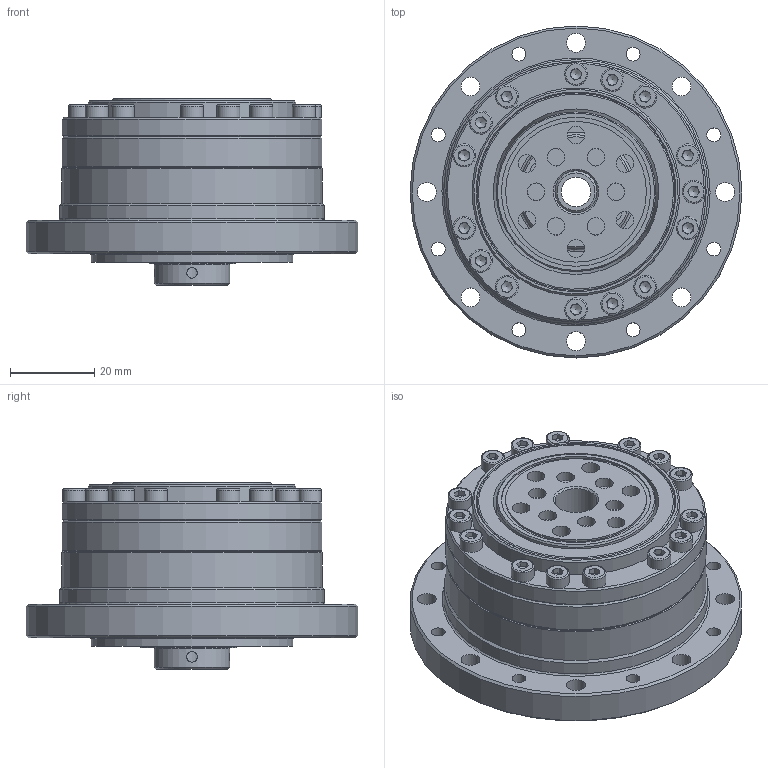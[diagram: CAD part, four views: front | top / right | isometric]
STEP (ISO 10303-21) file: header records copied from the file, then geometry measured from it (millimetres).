
FILE_DESCRIPTION (( 'STEP AP203' ), '1' );
FILE_NAME ('LCSG-17-XXX-C-II.STEP', '2025-01-20T01:51:04', ( '' ), ( '' ), 'SwSTEP 2.0', 'SolidWorks 2023', '' );
FILE_SCHEMA (( 'CONFIG_CONTROL_DESIGN' ));
Length unit declared in the file: metre
Products named in the file (1): LCSG-17-XXX-C-II
Bounding box: 79 x 79 x 44.5 mm (x, y, z)
Volume: 95288.7 mm3; surface area: 73798.7 mm2
Topology: 59 solids, 59 shells, 890 faces, 2113 edges, 1344 vertices
Faces by surface type: plane 455, cylinder 252, cone 92, bspline 91
Full cylindrical faces by diameter (mm): 1.7 x2, 2.5 x17, 3 x19, 3.3 x10, 3.5 x25, 4.2 x12, 4.5 x8, 5 x6, 5.5 x27, 7 x1, 8 x1, 8.5 x6, 10 x3, 17 x1, 18 x2, 18.5 x3, 20 x2, 27.2 x1, 27.5 x2, 28 x1, 29 x2, 30.295 x1, 30.298 x1, 32.5 x1, 32.53 x2, 33.23 x1, 33.5 x1, 35.5 x1, 37 x1, 38 x1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
Entity records: 28357 total; most frequent: CARTESIAN_POINT 9774, DIRECTION 3874, ORIENTED_EDGE 3234, EDGE_CURVE 1617, AXIS2_PLACEMENT_3D 1595, EDGE_LOOP 1460, VERTEX_POINT 1227, FACE_OUTER_BOUND 1131
